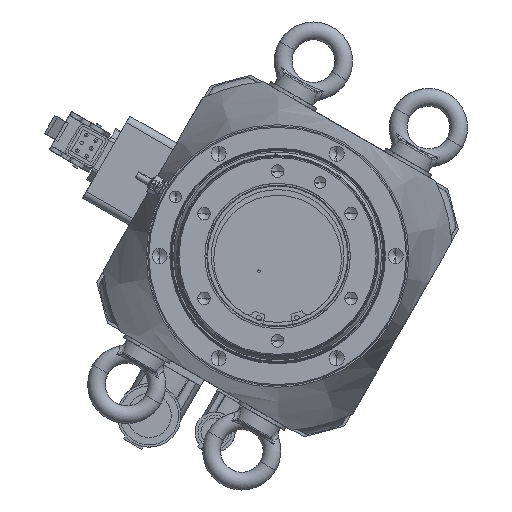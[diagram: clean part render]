
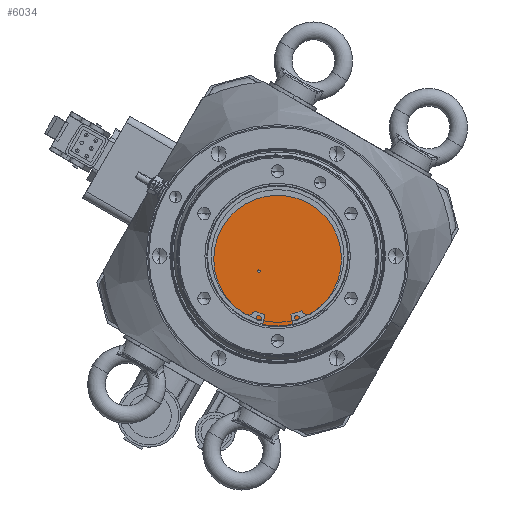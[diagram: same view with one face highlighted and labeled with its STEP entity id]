
A CAD part, front view. The second image highlights one B-rep face of the part: STEP entity #6034.
In plain terms, the highlighted planar face has unit normal (0, -1, 0).
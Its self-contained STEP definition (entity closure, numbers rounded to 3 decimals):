
#745 = VERTEX_POINT ( 'NONE', #53175 ) ;
#6034 = ADVANCED_FACE ( 'NONE', ( #68892, #62008 ), #29502, .F. ) ;
#8534 = DIRECTION ( 'NONE',  ( 0., 1., 0. ) ) ;
#9207 = ORIENTED_EDGE ( 'NONE', *, *, #20767, .F. ) ;
#10405 = DIRECTION ( 'NONE',  ( 0., 1., 0. ) ) ;
#11275 = CARTESIAN_POINT ( 'NONE',  ( -1.433, -49.5, 47.478 ) ) ;
#15276 = VERTEX_POINT ( 'NONE', #57526 ) ;
#15958 = ORIENTED_EDGE ( 'NONE', *, *, #41906, .T. ) ;
#18541 = DIRECTION ( 'NONE',  ( -0.03, 0., 1. ) ) ;
#18736 = EDGE_LOOP ( 'NONE', ( #9207, #45720 ) ) ;
#20324 = EDGE_LOOP ( 'NONE', ( #47750, #15958 ) ) ;
#20767 = EDGE_CURVE ( 'NONE', #15276, #36812, #60577, .T. ) ;
#23454 = DIRECTION ( 'NONE',  ( -0.03, 0., 1. ) ) ;
#27442 = EDGE_CURVE ( 'NONE', #61936, #745, #50391, .T. ) ;
#29502 = PLANE ( 'NONE',  #58694 ) ;
#30049 = DIRECTION ( 'NONE',  ( -0.03, 0., 1. ) ) ;
#34783 = DIRECTION ( 'NONE',  ( 0., 1., 0. ) ) ;
#35181 = CARTESIAN_POINT ( 'NONE',  ( 0., -49.5, 0. ) ) ;
#35510 = CARTESIAN_POINT ( 'NONE',  ( -12.663, -49.5, -10.379 ) ) ;
#36812 = VERTEX_POINT ( 'NONE', #11275 ) ;
#38853 = AXIS2_PLACEMENT_3D ( 'NONE', #63227, #34783, #23454 ) ;
#39423 = AXIS2_PLACEMENT_3D ( 'NONE', #42056, #10405, #54197 ) ;
#40289 = CIRCLE ( 'NONE', #65971, 1. ) ;
#41652 = DIRECTION ( 'NONE',  ( 0., 1., 0. ) ) ;
#41906 = EDGE_CURVE ( 'NONE', #745, #61936, #40289, .T. ) ;
#42056 = CARTESIAN_POINT ( 'NONE',  ( 0., -49.5, 0. ) ) ;
#42948 = CIRCLE ( 'NONE', #39423, 47.5 ) ;
#45720 = ORIENTED_EDGE ( 'NONE', *, *, #51824, .F. ) ;
#46641 = CARTESIAN_POINT ( 'NONE',  ( 0., -49.5, 0. ) ) ;
#47750 = ORIENTED_EDGE ( 'NONE', *, *, #27442, .T. ) ;
#50391 = CIRCLE ( 'NONE', #38853, 1. ) ;
#51824 = EDGE_CURVE ( 'NONE', #36812, #15276, #42948, .T. ) ;
#53175 = CARTESIAN_POINT ( 'NONE',  ( -12.693, -49.5, -9.38 ) ) ;
#54197 = DIRECTION ( 'NONE',  ( -0.03, 0., 1. ) ) ;
#55874 = AXIS2_PLACEMENT_3D ( 'NONE', #35181, #8534, #62920 ) ;
#57526 = CARTESIAN_POINT ( 'NONE',  ( 1.433, -49.5, -47.478 ) ) ;
#58694 = AXIS2_PLACEMENT_3D ( 'NONE', #46641, #63100, #18541 ) ;
#60577 = CIRCLE ( 'NONE', #55874, 47.5 ) ;
#61936 = VERTEX_POINT ( 'NONE', #68884 ) ;
#62008 = FACE_BOUND ( 'NONE', #20324, .T. ) ;
#62920 = DIRECTION ( 'NONE',  ( -0.03, 0., 1. ) ) ;
#63100 = DIRECTION ( 'NONE',  ( 0., 1., 0. ) ) ;
#63227 = CARTESIAN_POINT ( 'NONE',  ( -12.663, -49.5, -10.379 ) ) ;
#65971 = AXIS2_PLACEMENT_3D ( 'NONE', #35510, #41652, #30049 ) ;
#68884 = CARTESIAN_POINT ( 'NONE',  ( -12.633, -49.5, -11.379 ) ) ;
#68892 = FACE_OUTER_BOUND ( 'NONE', #18736, .T. ) ;
